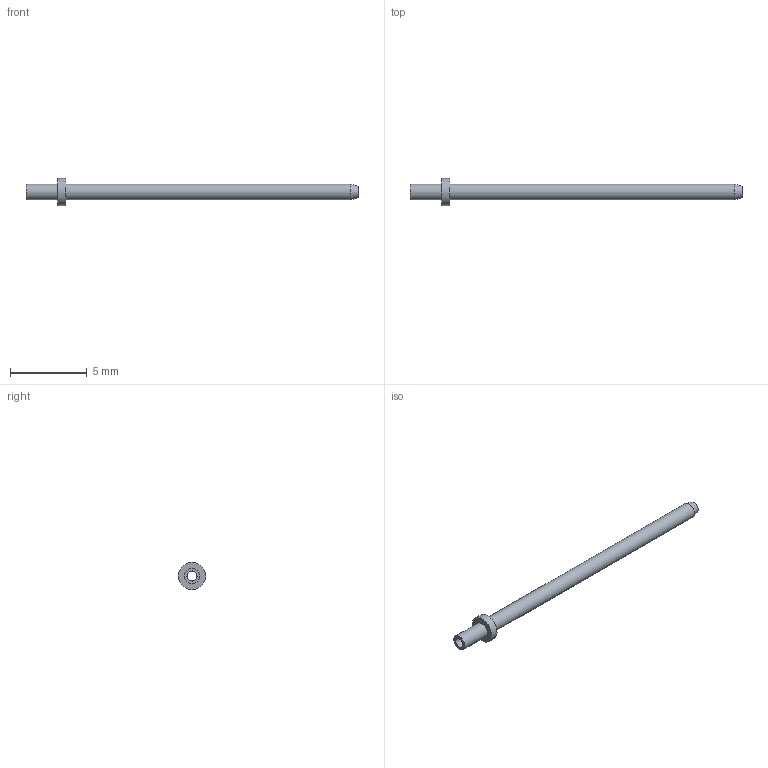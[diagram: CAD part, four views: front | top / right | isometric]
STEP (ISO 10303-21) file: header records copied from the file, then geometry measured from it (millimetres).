
FILE_DESCRIPTION(/* description */ (''),/* implementation_level */ '2;1');
FILE_NAME(/* name */ 'Z:\STEP folder\460295702.ipt.stp',/* time_stamp */ '2016-12-21T13:04:50+00:00',/* author */ ('Paul Karlsons'),/* organization */ (''),/* preprocessor_version */ 'ST-DEVELOPER v15.2',/* originating_system */ 'Autodesk Inventor 2014',/* authorisation */ '');
FILE_SCHEMA (('AUTOMOTIVE_DESIGN { 1 0 10303 214 3 1 1 }'));
Length unit declared in the file: millimetre
Products named in the file (1): 460295702
Bounding box: 21.64 x 1.78 x 1.78 mm (x, y, z)
Volume: 10.9 mm3; surface area: 118.9 mm2
Topology: 1 solids, 1 shells, 9 faces, 15 edges, 10 vertices
Faces by surface type: cylinder 4, plane 4, cone 1
Full cylindrical faces by diameter (mm): 0.66 x1, 1.016 x2, 1.778 x1
Entity records: 209 total; most frequent: DIRECTION 38, CARTESIAN_POINT 28, AXIS2_PLACEMENT_3D 19, EDGE_LOOP 18, ORIENTED_EDGE 18, FACE_BOUND 12, CIRCLE 9, VERTEX_POINT 9
